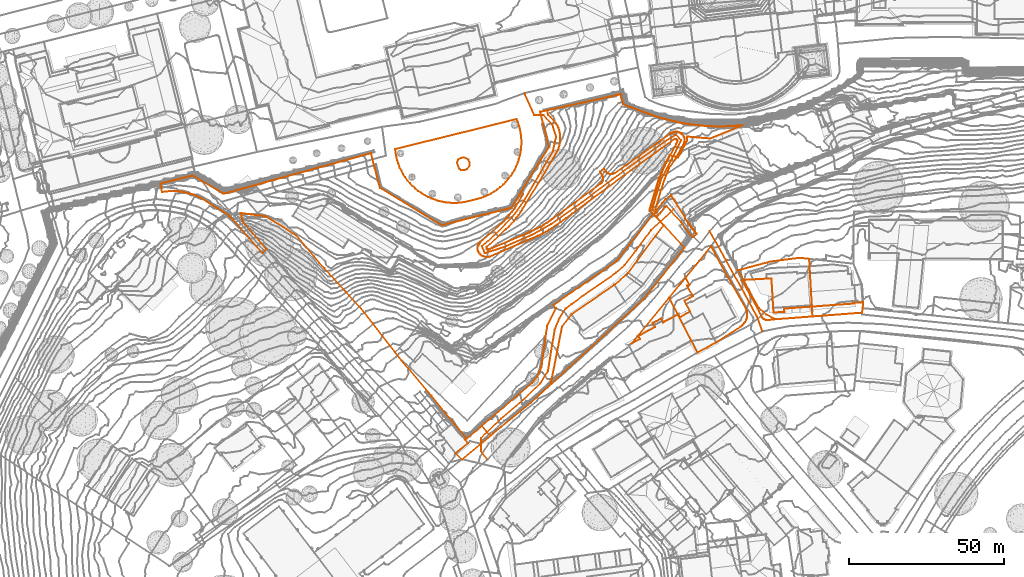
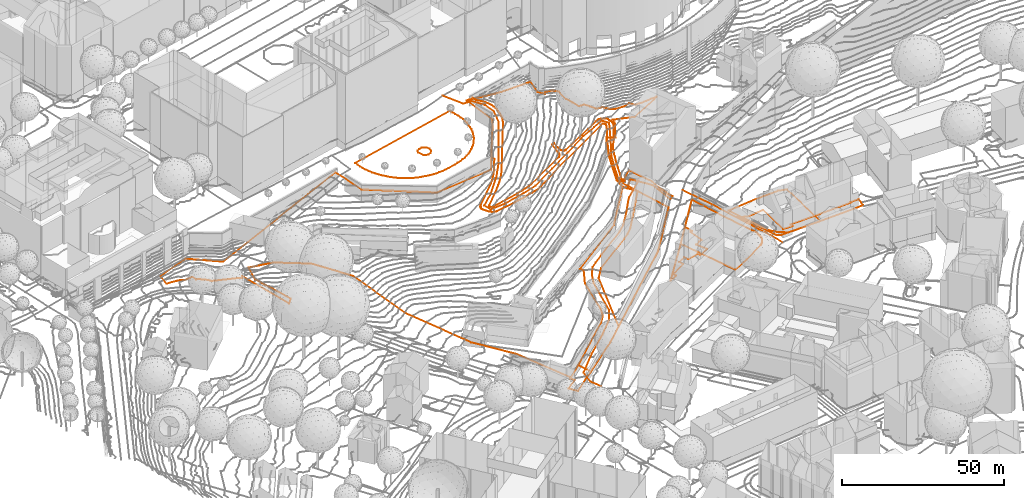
# Not in any storey, part 188 of 477: 8 civil elements, 4 geographic elements.
"""IFC4 model written with IfcOpenShell, lengths in metres."""

from ifc_helpers import new_model, entity, si_unit, frame, origin_with_axes, place, context, subcontext, project, spatial, element, save


model = new_model("IFC4")

# Units and contexts
model_context = context("Model", 3, precision=1e-05, world=origin_with_axes())
body_context = subcontext(model_context, "Body", "Model", "MODEL_VIEW")
ifc_project = project(units=[si_unit("AREAUNIT", "SQUARE_METRE"), si_unit("LENGTHUNIT", "METRE")], contexts=[model_context])

# Sites
site_1_placement = place(None, origin_with_axes())
site_1 = spatial("IfcSite", under=ifc_project, at=site_1_placement, Name="Topoexport Site")
site_2_placement = place(site_1_placement, origin_with_axes())
site_2 = spatial("IfcSite", under=site_1, at=site_2_placement, Name="TPX_ROADS")

# Civil elements
civil_element_1_placement = place(site_2_placement, frame((452.5207320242, 301.2667339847, 532.508), z_axis=(0.0, 0.0, 1.0), x_axis=(1.0, 0.0, 0.0)))
element("IfcCivilElement", 1, at=civil_element_1_placement, inside=site_2, Name="Road 8", ObjectType="ROAD", context=body_context, shape_type="GeometricCurveSet", body=[
    entity("IfcGeometricCurveSet", [entity("IfcIndexedPolyCurve", entity("IfcCartesianPointList3D", [[56.6480000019, 11.1579996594, -16.901], [56.3820000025, 10.835999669, -16.901], [56.2050000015, 10.6209996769, -16.901], [55.4410000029, 11.43299965, -16.839], [55.0990000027, 12.3319996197, -16.685], [56.3300000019, 16.5729994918, -16.191], [58.0030000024, 21.8799993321, -14.758], [61.3800000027, 28.1939991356, -13.506], [64.3170000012, 34.214998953, -12.061], [62.7020000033, 35.9769989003, -11.76], [58.5899999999, 33.4799989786, -11.19], [51.8360000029, 28.6349991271, -9.361], [42.143000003, 21.5869993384, -7.956], [32.4520000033, 14.2439995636, -6.127], [22.3200000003, 7.0489997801, -4.609], [16.006000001, 3.5239998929, -3.102], [7.1950000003, -0.2929999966, -1.635], [0.881000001, -2.3499999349, -0.346], [0.0, 0.0, 0.0], [4.5520000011, 3.9649998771, 0.365], [9.6910000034, 9.2519997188, 1.869], [13.3619999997, 14.3899995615, 2.299], [18.2080000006, 22.6139993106, 3.514], [22.9070000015, 30.689999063, 4.88], [23.9350000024, 35.3889989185, 5.664], [22.7609999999, 39.0599988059, 6.257], [19.949000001, 42.2949987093, 6.786], [16.8800000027, 42.2949987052, 6.891], [13.682, 49.3899984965, 6.685]]))]),
])
civil_element_2_placement = place(site_2_placement, frame((526.0887320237, 306.1137338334, 509.564), z_axis=(0.0, 0.0, 1.0), x_axis=(1.0, 0.0, 0.0)))
element("IfcCivilElement", 2, at=civil_element_2_placement, inside=site_2, Name="Road 157", ObjectType="ROAD", context=body_context, shape_type="GeometricCurveSet", body=[
    entity("IfcGeometricCurveSet", [entity("IfcIndexedPolyCurve", entity("IfcCartesianPointList3D", [[17.0340000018, -32.453999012, -5.954], [15.2719999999, -27.6079991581, -5.535], [11.3080000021, -20.2649993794, -4.023], [5.1400000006, -9.2519997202, -1.534], [0.0, 0.0, 0.0]]))]),
])
civil_element_3_placement = place(site_2_placement, frame((452.1207320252, 234.928736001, 506.386), z_axis=(0.0, 0.0, 1.0), x_axis=(1.0, 0.0, 0.0)))
element("IfcCivilElement", 3, at=civil_element_3_placement, inside=site_2, Name="Road 170", ObjectType="ROAD", context=body_context, shape_type="GeometricCurveSet", body=[
    entity("IfcGeometricCurveSet", [entity("IfcIndexedPolyCurve", entity("IfcCartesianPointList3D", [[2.1620000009, -2.6789999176, -0.872], [0.0, 0.0, 0.0], [5e-10, 4.2339998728, 0.869], [6.5670000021, 10.5369996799, 2.002], [14.0560000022, 16.9979994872, 2.537], [19.1959999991, 21.8449993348, 3.272], [21.6920000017, 25.9559992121, 3.733], [22.8669999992, 33.2979989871, 4.472], [23.895, 39.3179988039, 4.96], [25.3759999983, 43.0429986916, 5.415], [27.3610000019, 46.0859985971, 5.732], [29.3220000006, 47.5349985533, 5.834], [32.9169999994, 50.1869984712, 6.023], [43.7650000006, 57.726998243, 6.361], [46.4109999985, 60.1089981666, 6.445], [49.9820000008, 64.6059980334, 6.578], [55.0340000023, 71.5399978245, 6.916], [62.3460000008, 78.2149976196, 6.709]]))]),
])

# Site
site_3_placement = place(site_1_placement, origin_with_axes())
site_3 = spatial("IfcSite", under=site_1, at=site_3_placement, Name="TPX_ROADS_OUTLINES")

# Civil elements
civil_element_4_placement = place(site_3_placement, frame((424.4467320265, 332.5677160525, 539.4183781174), z_axis=(0.0, 0.0, 1.0), x_axis=(1.0, 0.0, 0.0)))
element("IfcCivilElement", 4, at=civil_element_4_placement, inside=site_3, Name="Roads Outline 57", ObjectType="ROAD", context=body_context, shape_type="GeometricCurveSet", body=[
    entity("IfcGeometricCurveSet", [entity("IfcIndexedPolyCurve", entity("IfcCartesianPointList3D", [[0.0, 0.0, 0.0], [39.2740000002, 9.713, -0.0045597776], [39.7150000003, 8.5789999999, -0.0435130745], [40.0820000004, 7.4199999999, -0.0755284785], [40.375, 6.2389999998, -0.0744888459], [40.591, 5.0419999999, -0.0718479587], [40.73, 3.8339999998, 0.0097946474], [40.7920000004, 2.6189999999, 0.0466417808], [40.7750000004, 1.4029999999, 0.022346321], [40.6810000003, 0.1899999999, -0.0875434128], [40.5090000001, -1.0140000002, -0.1010078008], [40.2600000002, -2.2050000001, -0.0472795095], [39.9360000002, -3.3770000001, -0.0518511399], [39.537, -4.5260000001, -0.0579178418], [39.0650000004, -5.6470000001, -0.0194248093], [38.523, -6.736, -0.0211341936], [37.912, -7.7880000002, -0.0218287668], [37.2350000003, -8.7980000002, -0.0328870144], [36.4940000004, -9.763, -0.0262968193], [35.6940000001, -10.679, -0.0425654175], [34.8360000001, -11.5410000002, -0.0356918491], [33.9250000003, -12.3470000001, -0.0149271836], [32.9640000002, -13.0930000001, 0.0112943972], [31.9570000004, -13.7750000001, 0.0247038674], [30.909, -14.392, -0.0612446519], [29.8230000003, -14.9400000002, -0.0017270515], [28.7040000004, -15.4180000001, 0.0425044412], [27.5580000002, -15.8230000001, 0.0329771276], [26.3870000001, -16.1540000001, 0.0191743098], [23.6660000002, -16.8150000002, 0.0214867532], [22.4720000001, -17.0800000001, 0.0213547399], [21.2630000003, -17.267, 0.0218737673], [20.0450000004, -17.3770000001, -0.0107805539], [18.8230000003, -17.4080000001, -0.0008671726], [17.6010000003, -17.3600000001, 0.0042676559], [16.3840000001, -17.2340000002, 0.0068673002], [15.1780000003, -17.03, 0.0396822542], [13.9880000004, -16.7490000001, 0.0047734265], [12.818, -16.392, -0.0321487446], [11.6740000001, -15.9610000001, -0.0428608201], [10.5600000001, -15.4570000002, -0.0296490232], [9.48, -14.882, -0.036921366], [8.4400000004, -14.2390000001, -0.0601979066], [7.443, -13.5310000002, -0.0514258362], [6.4930000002, -12.76, -0.0228515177], [5.5950000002, -11.9300000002, -0.0724719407], [4.753, -11.0430000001, 0.0186784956], [3.969, -10.105, 0.01955624], [3.247, -9.1170000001, 0.0105898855], [2.5900000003, -8.0860000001, 0.0273971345], [2.0, -7.0140000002, -0.0117850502], [1.4810000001, -5.9070000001, 0.0528604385], [1.034, -4.7690000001, 0.0221340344], [0.6610000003, -3.6040000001, 0.0180715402], [0.3630000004, -2.4180000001, 0.0151391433], [0.1430000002, -1.2150000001, 0.0081519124], [0.0, 0.0, 0.0]]))]),
])
civil_element_5_placement = place(site_3_placement, frame((536.5667320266, 290.2477160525, 505.3835960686), z_axis=(0.0, 0.0, 1.0), x_axis=(1.0, 0.0, 0.0)))
element("IfcCivilElement", 5, at=civil_element_5_placement, inside=site_3, Name="Roads Outline 85", ObjectType="ROAD", context=body_context, shape_type="GeometricCurveSet", body=[
    entity("IfcGeometricCurveSet", [entity("IfcIndexedPolyCurve", entity("IfcCartesianPointList3D", [[0.0, 0.0, 0.0], [3.622, 0.199, -1.1983876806], [9.4720000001, 0.52, -0.9313934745], [10.1400000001, -10.52, -1.6788039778], [13.6469999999, -10.281, -1.9527193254], [13.5720000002, -9.2509999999, -1.8727832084], [22.5430000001, -8.594, -2.220691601], [35.943, -7.612, -2.5140492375], [35.9280000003, -7.4099999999, -2.4933574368], [38.9509999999, -7.2010000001, -2.493307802], [39.1370000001, -7.1880000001, -2.4978998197], [38.9300000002, -9.095, -2.6065473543], [38.77, -10.5649999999, -2.6585961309], [22.7310000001, -11.777, -2.3434007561], [10.6320000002, -12.6980000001, -1.8195108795], [8.4920000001, -12.9410000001, -1.7067195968], [8.1150000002, -12.976, -1.6856202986], [7.7379999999, -12.939, -1.6664384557], [7.375, -12.831, -1.6507349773], [7.0389999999, -12.6570000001, -1.6370482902], [6.7420000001, -12.422, -1.6139768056], [6.4950000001, -12.135, -1.5802082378], [6.307, -11.8060000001, -1.542326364], [5.0840000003, -9.2779999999, -1.1630651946], [5.0460000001, -9.2010000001, -1.1589280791], [0.0, 0.0, 0.0]]))]),
])
civil_element_6_placement = place(site_3_placement, frame((444.0047320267, 234.3987160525, 506.9351353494), z_axis=(0.0, 0.0, 1.0), x_axis=(1.0, 0.0, 0.0)))
element("IfcCivilElement", 6, at=civil_element_6_placement, inside=site_3, Name="Roads Outline 93", ObjectType="ROAD", context=body_context, shape_type="GeometricCurveSet", body=[
    entity("IfcGeometricCurveSet", [entity("IfcIndexedPolyCurve", entity("IfcCartesianPointList3D", [[0.0, 0.0, 0.0], [3.9550000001, 3.1629999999, -0.0307581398], [3.0490000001, 4.26, 0.1611337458], [3.5049999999, 4.6039999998, 0.1047028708], [8.4550000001, 8.764, 0.5719090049], [9.1850000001, 9.3899999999, 0.5929481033], [24.5980000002, 22.6259999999, 2.652626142], [25.21, 23.2509999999, 2.7109248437], [25.77, 23.9239999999, 2.775616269], [26.2719999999, 24.6409999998, 2.8605460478], [26.7140000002, 25.3959999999, 2.9397775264], [27.0929999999, 26.1849999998, 2.9962596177], [27.406, 27.0019999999, 3.1508445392], [27.6510000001, 27.8419999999, 3.3031284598], [27.827, 28.6989999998, 3.3694165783], [29.0430000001, 37.602, 4.2091110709], [29.1910000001, 38.689, 4.3555372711], [29.591, 41.1229999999, 4.5537559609], [32.3790000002, 46.74, 5.0266992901], [31.557, 47.7709999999, 5.1555257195], [51.9339999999, 61.9589999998, 5.9585981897], [63.827, 77.1639999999, 7.1703084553], [64.3599999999, 76.7239999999, 6.7948441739], [65.0150000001, 76.1819999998, 6.534303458], [67.1710000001, 73.666, 6.4116579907], [64.4270000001, 69.9669999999, 6.2782489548], [55.4169999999, 57.8169999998, 5.9085776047], [53.3509999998, 56.071, 5.675805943], [51.2880000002, 54.328, 5.7067057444], [51.1970000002, 54.2659999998, 5.70902126], [37.4410000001, 44.8089999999, 5.1718862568], [34.3509999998, 40.8459999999, 4.8868573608], [30.7000000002, 22.1599999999, -0.6636134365], [24.2820000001, 16.2949999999, -0.9184241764], [11.9890000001, 6.1769999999, -0.8244341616], [11.1839999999, 5.514, -0.8392498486], [7.9950000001, 2.8429999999, -0.3437232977], [2.0959999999, -2.0960000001, -0.4512191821], [0.0, 0.0, 0.0]]))]),
])
civil_element_7_placement = place(site_3_placement, frame((500.8287320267, 269.7407160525, 506.3617243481), z_axis=(0.0, 0.0, 1.0), x_axis=(1.0, 0.0, 0.0)))
element("IfcCivilElement", 7, at=civil_element_7_placement, inside=site_3, Name="Roads Outline 127", ObjectType="ROAD", context=body_context, shape_type="GeometricCurveSet", body=[
    entity("IfcGeometricCurveSet", [entity("IfcIndexedPolyCurve", entity("IfcCartesianPointList3D", [[0.0, 0.0, 0.0], [12.1430000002, 14.797, 0.6289548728], [17.4890000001, 21.3459999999, 1.2070523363], [18.682, 19.1029999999, 0.4858708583], [17.9840000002, 18.7319999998, 0.6013398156], [19.8160000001, 15.2879999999, -0.8596442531], [18.6770000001, 14.682, -0.7444421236], [17.0839999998, 13.835, -0.8329642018], [18.9449999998, 10.334, -0.926820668], [15.6269999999, 8.517, -1.0169031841], [15.1239999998, 9.4839999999, -0.9169735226], [14.9559999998, 9.3929999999, -0.8786977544], [10.2140000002, 6.824, 0.3817597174], [9.5249999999, 8.074, 0.6364313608], [6.835, 6.5989999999, 0.6259467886], [7.551, 5.3399999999, 0.3304719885], [2.2229999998, 2.4099999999, 0.1652694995], [2.7310000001, 1.4919999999, -0.01792651], [0.0, 0.0, 0.0]]))]),
])
civil_element_8_placement = place(site_3_placement, frame((451.0627320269, 300.6077160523, 532.344853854), z_axis=(0.0, 0.0, 1.0), x_axis=(1.0, 0.0, 0.0)))
element("IfcCivilElement", 8, at=civil_element_8_placement, inside=site_3, Name="Roads Outline 137", ObjectType="ROAD", context=body_context, shape_type="GeometricCurveSet", body=[
    entity("IfcGeometricCurveSet", [entity("IfcIndexedPolyCurve", entity("IfcCartesianPointList3D", [[0.1579999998, 0.952, 0.0092594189], [0.372, 0.8500000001, 0.0034604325], [0.4589999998, 1.182, 0.0361574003], [0.5979999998, 1.496, 0.0884358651], [0.787, 1.7830000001, 0.1087660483], [1.02, 2.0360000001, 0.091669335], [7.4679999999, 7.6540000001, 1.1023663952], [8.426, 8.5990000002, 1.3194146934], [9.3449999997, 9.5820000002, 1.4940632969], [10.2229999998, 10.601, 1.7030825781], [11.1859999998, 11.8220000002, 1.9282145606], [12.091, 13.0870000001, 2.168034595], [14.7219999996, 17.4060000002, 2.9472054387], [14.0099999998, 18.02, 3.3245718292], [23.0419999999, 32.841, 5.3881047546], [20.2219999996, 44.0120000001, 6.9616994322], [22.4409999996, 44.4910000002, 6.8963017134], [22.8599999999, 42.9360000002, 6.8672930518], [23.6519999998, 42.226, 6.7490785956], [24.392, 41.4620000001, 6.6382654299], [24.9139999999, 40.8520000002, 6.5381969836], [25.4029999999, 40.2140000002, 6.468987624], [25.8569999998, 39.5520000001, 6.3707184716], [26.1509999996, 38.8260000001, 6.2912083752], [26.3869999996, 38.0800000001, 6.1588097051], [26.5619999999, 37.317, 5.9569280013], [26.676, 36.5420000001, 5.8046309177], [26.7279999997, 35.7610000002, 5.6593209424], [26.7119999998, 34.895, 5.4525778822], [26.6189999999, 34.0330000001, 5.2914185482], [26.4509999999, 33.1830000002, 5.1600183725], [26.2079999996, 32.351, 5.0312722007], [25.892, 31.544, 4.8806323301], [25.5059999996, 30.7680000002, 4.757666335], [23.3159999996, 27.0920000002, 4.2763765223], [14.6239999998, 12.7250000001, 2.0283122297], [13.9579999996, 11.682, 1.8244098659], [13.2519999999, 10.6670000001, 1.6702525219], [12.5049999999, 9.6800000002, 1.5507825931], [11.7199999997, 8.7240000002, 1.4173134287], [10.9269999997, 7.8320000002, 1.2438214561], [10.1009999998, 6.9720000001, 0.9983842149], [9.2419999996, 6.1430000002, 0.8824686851], [3.074, 0.4550000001, -0.2127317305], [2.9479999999, 0.3010000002, -0.2635257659], [2.8829999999, 0.1130000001, -0.3284473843], [2.8879999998, -0.0859999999, -0.3524937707], [2.9619999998, -0.2709999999, -0.3714012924], [3.0779999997, -0.4029999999, -0.3970207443], [3.2289999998, -0.4929999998, -0.4297189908], [3.3999999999, -0.5319999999, -0.4657297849], [3.5749999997, -0.5159999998, -0.5021135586], [15.5099999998, 4.5660000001, -2.5362907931], [16.7389999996, 5.121, -2.7099482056], [17.9569999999, 5.6980000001, -2.9481187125], [19.2259999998, 6.3280000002, -3.0484743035], [20.4819999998, 6.983, -3.4477442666], [21.4139999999, 7.5320000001, -3.5923197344], [22.3269999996, 8.1120000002, -3.7638247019], [23.219, 8.7240000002, -3.9382991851], [28.1339999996, 12.273, -4.7542871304], [39.7409999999, 20.807, -7.0947559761], [40.0049999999, 21.0320000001, -7.1601095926], [40.2279999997, 21.297, -7.1746073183], [40.4029999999, 21.5960000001, -7.1907662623], [40.5279999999, 21.929, -7.2188201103], [40.5949999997, 22.2790000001, -7.1389866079], [40.5999999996, 22.6340000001, -6.9760760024], [40.5439999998, 22.986, -6.7711049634], [40.429, 23.3220000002, -6.4623985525], [40.2569999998, 23.6340000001, -6.1049176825], [39.537, 24.6470000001, -4.810469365], [40.8329999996, 25.6700000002, -5.2587416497], [41.483, 24.6900000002, -6.3821222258], [41.7409999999, 24.412, -6.7583479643], [42.0439999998, 24.1830000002, -7.1274100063], [42.3819999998, 24.01, -7.4354290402], [42.7449999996, 23.898, -7.6614107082], [43.1399999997, 23.8500000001, -7.86111544], [43.5359999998, 23.8740000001, -7.8903885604], [43.9219999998, 23.9700000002, -7.9285490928], [44.284, 24.1340000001, -7.9639429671], [62.142, 36.9330000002, -11.476687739], [62.585, 37.1630000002, -11.4604175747], [63.048, 37.3520000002, -11.3922880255], [63.415, 37.469, -11.3903862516], [63.7889999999, 37.5580000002, -11.4138038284], [64.159, 37.5800000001, -11.4669125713], [64.5279999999, 37.5520000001, -11.4737450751], [64.8909999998, 37.4740000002, -11.504032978], [65.2389999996, 37.3470000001, -11.5395594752], [65.6359999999, 37.1440000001, -11.5742211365], [65.9979999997, 36.8830000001, -11.6238240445], [66.3159999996, 36.571, -11.7354756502], [66.5829999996, 36.2140000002, -11.8907107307], [66.7929999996, 35.821, -11.9994817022], [66.8659999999, 35.4810000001, -12.0559041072], [66.9029999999, 35.135, -12.1130416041], [66.9039999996, 34.787, -12.1826063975], [66.861, 34.3820000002, -12.2584218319], [66.77, 33.986, -12.3307330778], [64.1829999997, 29.2140000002, -13.4960921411], [61.8599999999, 25.7620000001, -14.1610872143], [61.3649999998, 24.5900000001, -14.4603045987], [60.8969999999, 23.4080000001, -14.6806566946], [60.3989999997, 22.0350000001, -15.029632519], [59.9219999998, 20.655, -15.3153385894], [59.4139999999, 19.111, -15.5248313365], [58.9309999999, 17.5590000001, -15.8327025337], [57.503, 12.6740000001, -17.0381658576], [57.4499999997, 12.388, -17.131150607], [57.6979999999, 12.1660000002, -17.4277969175], [58.4349999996, 13.1330000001, -17.5245292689], [59.8059999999, 14.7110000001, -18.231701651], [60.8569999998, 15.834, -18.3371087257], [62.5329999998, 17.0330000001, -17.8849381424], [66.8459999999, 10.2950000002, -19.5070420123], [67.2599999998, 9.2520000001, -19.924798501], [68.088, 8.0680000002, -20.9084779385], [68.2779999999, 7.814, -21.1120105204], [68.4729999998, 7.5550000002, -21.2787051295], [68.6529999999, 7.3160000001, -21.3796090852], [68.8589999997, 7.04, -21.4468309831], [69.0409999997, 6.7980000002, -21.6017211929], [69.21, 6.5720000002, -21.7433093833], [69.412, 6.3030000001, -21.9434452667], [69.591, 6.064, -22.1224231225], [69.77, 5.827, -22.3490224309], [69.9569999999, 5.5760000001, -22.5317040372], [70.1289999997, 5.348, -22.6438578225], [70.3169999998, 5.0970000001, -22.6752236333], [70.5289999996, 4.814, -22.7817460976], [70.7039999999, 4.581, -22.8592903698], [70.8079999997, 4.4430000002, -22.89741996], [69.4479999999, 3.4620000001, -22.9908939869], [65.8159999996, 8.3380000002, -19.2799242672], [61.148, 13.5140000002, -18.677630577], [60.8589999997, 13.3690000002, -18.6744953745], [60.605, 13.2250000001, -18.6814804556], [60.4939999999, 13.1300000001, -18.6927562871], [60.395, 13.023, -18.7045519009], [58.9129999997, 11.1870000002, -18.7217713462], [57.9569999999, 9.973, -18.8754150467], [57.3019999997, 10.5150000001, -18.6148743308], [56.7689999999, 10.9550000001, -18.2394100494], [56.4609999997, 11.2100000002, -17.9043747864], [55.5829999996, 11.976, -16.445857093], [57.2519999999, 17.4990000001, -15.656994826], [57.642, 18.9530000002, -15.3674454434], [58.0759999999, 20.3940000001, -15.0895398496], [58.554, 21.821, -14.8071615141], [59.165, 23.4210000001, -14.5098932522], [59.8199999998, 25.003, -14.1905812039], [60.5159999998, 26.5680000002, -13.8237879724], [61.412, 28.4300000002, -13.4085170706], [62.3659999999, 30.263, -13.0186559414], [64.1779999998, 33.5390000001, -12.2611845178], [64.5859999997, 34.5700000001, -12.0646644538], [64.5549999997, 34.74, -12.030075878], [64.486, 34.898, -11.993752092], [64.3819999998, 35.0360000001, -11.9556743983], [64.2349999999, 35.1570000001, -11.9236795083], [64.0629999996, 35.2370000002, -11.8855597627], [63.8759999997, 35.2720000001, -11.8266457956], [63.6859999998, 35.2580000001, -11.7729379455], [37.591, 16.4040000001, -6.997098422], [28.5819999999, 9.6590000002, -5.7523858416], [26.7879999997, 8.3600000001, -5.2933233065], [24.9679999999, 7.0970000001, -5.2616925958], [23.1239999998, 5.8700000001, -4.6994669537], [22.2609999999, 5.334, -4.4619918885], [21.3729999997, 4.8390000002, -4.1773491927], [20.4619999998, 4.3870000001, -4.1052361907], [19.531, 3.9790000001, -3.6935804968], [17.1679999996, 2.9100000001, -3.566628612], [4.0929999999, -2.7359999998, -0.7829579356], [3.6319999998, -2.8839999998, -0.7093285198], [3.1539999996, -2.9549999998, -0.6232187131], [2.6699999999, -2.9469999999, -0.4949473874], [2.1939999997, -2.8599999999, -0.3571021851], [1.7379999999, -2.6969999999, -0.2378095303], [1.3149999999, -2.4619999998, -0.152793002], [0.9359999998, -2.1609999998, -0.090757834], [0.611, -1.8019999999, -0.0295948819], [0.3489999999, -1.3959999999, -0.0012709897], [0.1569999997, -0.9509999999, -0.0190975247], [0.04, -0.4819999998, -0.0065431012], [0.0, 0.0, 0.0], [0.04, 0.483, 0.0078540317], [0.1579999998, 0.952, 0.0092594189]]))]),
])

# Site
site_4_placement = place(site_1_placement, origin_with_axes())
site_4 = spatial("IfcSite", under=site_1, at=site_4_placement, Name="TPX_CADASTRES")

# Geographic elements
geographic_element_1_placement = place(site_4_placement, frame((348.5607320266, 321.4607160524, 530.0937704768), z_axis=(0.0, 0.0, 1.0), x_axis=(1.0, 0.0, 0.0)))
element("IfcGeographicElement", 9, at=geographic_element_1_placement, inside=site_4, Name="Cadastre 38", PredefinedType="NOTDEFINED", context=body_context, shape_type="GeometricCurveSet", body=[
    entity("IfcGeometricCurveSet", [entity("IfcIndexedPolyCurve", entity("IfcCartesianPointList3D", [[0.0, 0.0, 0.0], [10.4360000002, 2.5530000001, 1.2569342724], [20.375, -3.3470000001, 0.2654229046], [68.0690000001, 9.784, 9.2780797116], [69.0390000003, 5.834, 9.1659825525], [70.9840000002, -1.456, 8.6262380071], [90.8370000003, -13.496, 7.8312685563], [113.4450000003, -7.8640000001, 5.1824496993], [125.5440000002, 11.9879999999, 7.6391881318], [122.7239999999, 23.159, 9.2127828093], [136.5830000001, 26.1499999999, 5.6585209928], [148.8110000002, 28.841, 3.6911593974], [149.5210000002, 25.6259999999, 1.4891401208], [151.5610000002, 24.6810000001, 0.6396457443], [151.6310000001, 24.861, 1.2462101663], [153.6340000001, 24.003, 1.6516147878], [155.659, 23.2, 0.9837421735], [157.7050000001, 22.453, -2.0211282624], [159.7710000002, 21.7609999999, -3.6629680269], [161.5100000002, 21.21, -5.3402328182], [163.267, 20.723, -5.0879443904], [165.0420000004, 20.3, -6.1078874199], [166.8300000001, 19.942, -7.3005214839], [166.8200000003, 19.8119999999, -7.3617971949], [169.108, 19.422, -7.3187053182], [171.4050000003, 19.085, -8.6153820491], [173.7090000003, 18.8019999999, -9.1555587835], [176.0190000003, 18.5719999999, -8.9383991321], [178.0279999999, 18.469, -8.3552863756], [180.0390000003, 18.4239999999, -9.6026405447], [182.0500000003, 18.4369999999, -9.6846526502], [184.0600000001, 18.507, -9.6295527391], [186.0670000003, 18.635, -9.5163623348], [188.0700000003, 18.8200000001, -9.6263216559], [177.6130000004, 14.517, -10.9535856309], [170.1850000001, 15.132, -9.8366411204], [170.1850000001, 13.807, -10.0382283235], [169.5160000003, 12.5900000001, -10.3537200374], [167.2740000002, 8.4280000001, -11.3960044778], [164.4760000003, 9.111, -10.8081585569], [163.281, 6.851, -11.2940944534], [161.1010000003, 1.6599999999, -12.4396063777], [158.0410000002, -8.4210000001, -14.0802249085], [169.3510000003, -20.7209999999, -20.9286257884], [156.0320000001, -37.5830000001, -22.3435951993], [119.7260000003, -70.767, -24.0770593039], [106.628, -81.548, -23.9978849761], [103.8990000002, -78.298, -22.5867261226], [98.949, -82.4580000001, -23.0539322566], [87.5600000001, -68.558, -18.5778495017], [77.9610000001, -57.1880000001, -17.6874939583], [64.432, -39.8670000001, -12.4797629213], [59.8820000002, -34.9469999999, -8.2992285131], [52.9820000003, -27.4169999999, -1.9514518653], [44.0530000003, -16.9169999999, -0.5202767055], [34.014, -10.642, -0.4242441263], [25.9850000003, -9.5870000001, -0.1419525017], [26.6750000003, -12.3970000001, -3.1464876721], [34.2760000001, -21.2290000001, -7.7146522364], [33.0060000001, -22.439, -8.3648272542], [22.8670000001, -10.9850000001, -1.4420838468], [22.7170000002, -11.0970000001, -2.0263431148], [22.145, -10.379, -2.2524968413], [14.9560000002, -5.8689999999, -3.5808979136], [13.926, -5.2180000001, -3.2484448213], [12.858, -4.6310000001, -3.1148173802], [11.7560000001, -4.1100000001, -2.9101385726], [10.625, -3.656, -2.7960591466], [9.469, -3.2720000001, -1.6831860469], [8.2960000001, -2.959, -2.0863801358], [7.105, -2.7180000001, -2.3942273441], [5.9029999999, -2.5490000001, -2.0135224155], [4.6920000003, -2.453, -1.9817480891], [3.4780000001, -2.4299999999, -1.8361862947], [0.5470000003, -2.76, -1.4543124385], [0.0, 0.0, 0.0]]))]),
])
geographic_element_2_placement = place(site_4_placement, frame((535.2597320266, 293.4207160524, 506.3619766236), z_axis=(0.0, 0.0, 1.0), x_axis=(1.0, 0.0, 0.0)))
element("IfcGeographicElement", 10, at=geographic_element_2_placement, inside=site_4, Name="Cadastre 117", PredefinedType="NOTDEFINED", context=body_context, shape_type="GeometricCurveSet", body=[
    entity("IfcGeometricCurveSet", [entity("IfcIndexedPolyCurve", entity("IfcCartesianPointList3D", [[0.0, 0.0, 0.0], [10.429, 2.801, -1.3257285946], [19.898, 3.9920000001, -1.9088062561], [22.9680000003, 3.652, -2.2358954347], [23.108, 1.202, -2.4559819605], [23.8480000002, -11.7290000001, -3.1989259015], [24.0380000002, -14.95, -3.3217813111], [11.9390000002, -15.871, -2.7978914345], [9.0300000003, -14.2709999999, -2.5583777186], [6.71, -12.2709999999, -2.2117652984], [0.0, 0.0, 0.0]]))]),
])
geographic_element_3_placement = place(site_4_placement, frame((512.9717320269, 284.5377160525, 506.9906792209), z_axis=(0.0, 0.0, 1.0), x_axis=(1.0, 0.0, 0.0)))
element("IfcGeographicElement", 11, at=geographic_element_3_placement, inside=site_4, Name="Cadastre 129", PredefinedType="NOTDEFINED", context=body_context, shape_type="GeometricCurveSet", body=[
    entity("IfcGeometricCurveSet", [entity("IfcIndexedPolyCurve", entity("IfcCartesianPointList3D", [[0.0, 0.0, 0.0], [13.5689999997, 16.6229999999, 1.837974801], [19.1579999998, 6.432, -0.3257036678], [24.8679999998, -3.4980000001, -2.1817186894], [25.0629999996, -4.0220000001, -2.3483350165], [25.1949999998, -4.5650000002, -2.4694952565], [25.2629999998, -5.1189999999, -2.5539370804], [25.2659999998, -5.6780000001, -2.6396270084], [25.2039999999, -6.2340000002, -2.7161649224], [25.0779999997, -6.7780000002, -2.7735326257], [24.8759999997, -7.3030000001, -2.8190236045], [24.6140000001, -7.8, -2.8850613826], [24.2949999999, -8.264, -2.9144093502], [23.9239999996, -8.6870000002, -2.9316256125], [23.5069999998, -9.064, -2.9355620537], [23.048, -9.389, -2.9039421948], [15.219, -14.4400000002, -2.5118460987], [9.1999999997, -17.6700000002, -2.2180439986], [0.0, 0.0, 0.0]]))]),
])

# Site
site_5_placement = place(site_1_placement, origin_with_axes())
site_5 = spatial("IfcSite", under=site_1, at=site_5_placement, Name="TPX_CONTOUR_LINES")

# Geographic element
geographic_element_4_placement = place(site_5_placement, frame((444.4500045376, 328.1707160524, 539.0), z_axis=(0.0, 0.0, 1.0), x_axis=(1.0, 0.0, 0.0)))
element("IfcGeographicElement", 12, at=geographic_element_4_placement, inside=site_5, Name="Contour Line 539.0 m", PredefinedType="NOTDEFINED", context=body_context, shape_type="GeometricCurveSet", body=[
    entity("IfcGeometricCurveSet", [entity("IfcIndexedPolyCurve", entity("IfcCartesianPointList3D", [[3.2277274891, -2.0854981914, 0.0], [4.0159114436, -1.0, 0.0], [4.0431121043, 0.0, 0.0], [3.6492471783, 1.0, 0.0], [2.2277274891, 1.7034358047, 0.0], [1.2277274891, 1.5493506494, 0.0], [0.320002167, 1.0, 0.0], [0.0, 0.0, 0.0], [0.7249952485, -2.0, 0.0], [1.2277274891, -2.3483648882, 0.0], [2.2277274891, -2.4492814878, 0.0], [3.2277274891, -2.0854981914, 0.0]]))]),
])

save(model, "model.ifc")
